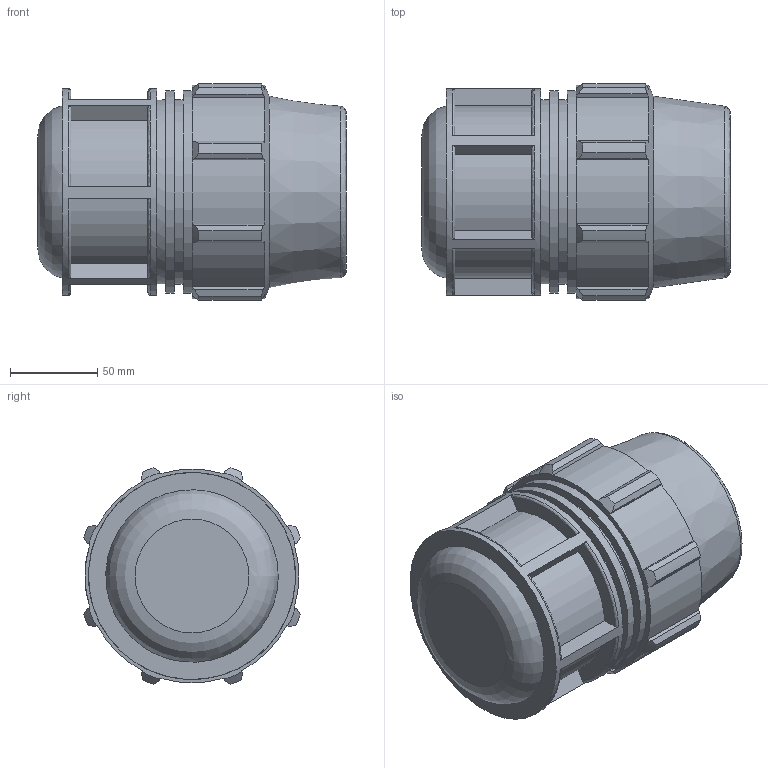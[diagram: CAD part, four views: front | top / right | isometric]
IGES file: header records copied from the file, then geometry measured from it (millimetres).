
Global section: file name: 871200075_181200075.ipt; native system: Autodesk Inventor 2015; preprocessor: unknown; author: Кирилл,,11,0; organization: 20170224.180708; date: 20170608.042533; units: millimetre
Bounding box: 177 x 124.2 x 124.2 mm (x, y, z)
Volume: 947016.5 mm3; surface area: 138298.7 mm2
Topology: 1 solids, 1 shells, 121 faces, 322 edges, 216 vertices
Faces by surface type: plane 66, cylinder 27, revolution 18, cone 10
Full cylindrical faces by diameter (mm): 105.6 x2, 116.424 x2, 118.8 x1
